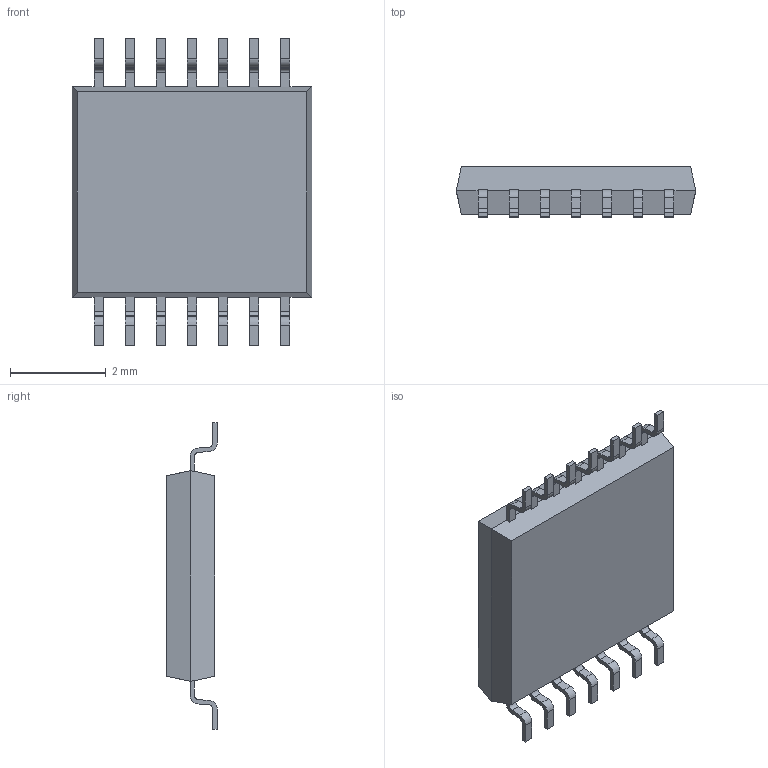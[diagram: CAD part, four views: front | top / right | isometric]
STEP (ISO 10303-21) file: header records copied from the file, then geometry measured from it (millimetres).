
FILE_DESCRIPTION (( 'STEP AP214' ), '1' );
FILE_NAME ('LX34211QPW-TR.STEP', '2024-07-01T17:39:41', ( '' ), ( '' ), 'SwSTEP 2.0', 'SolidWorks 2023', '' );
FILE_SCHEMA (( 'AUTOMOTIVE_DESIGN' ));
Length unit declared in the file: millimetre
Products named in the file (1): LX34211QPW-TR
Bounding box: 5 x 1.05 x 6.4 mm (x, y, z)
Volume: 21.3 mm3; surface area: 69.5 mm2
Topology: 1 solids, 1 shells, 195 faces, 572 edges, 380 vertices
Faces by surface type: plane 137, cylinder 58
Entity records: 6616 total; most frequent: CARTESIAN_POINT 1148, ORIENTED_EDGE 1144, DIRECTION 1080, EDGE_CURVE 572, LINE 456, VECTOR 456, VERTEX_POINT 380, AXIS2_PLACEMENT_3D 312
